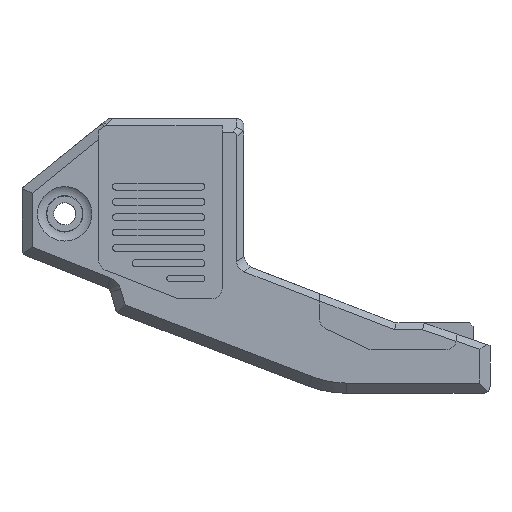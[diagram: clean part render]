
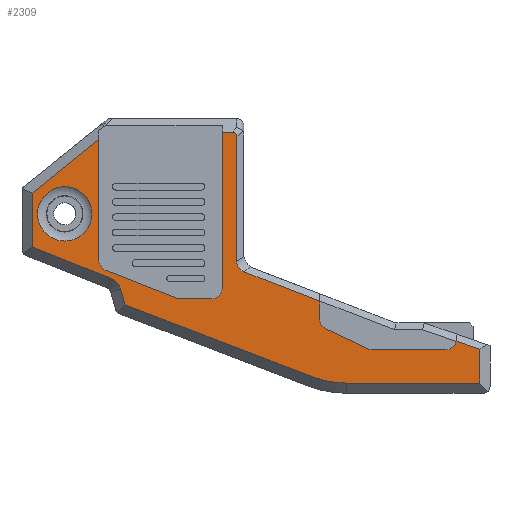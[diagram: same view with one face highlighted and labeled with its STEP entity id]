
A CAD part, left-side view. The second image highlights one B-rep face of the part: STEP entity #2309.
In plain terms, the highlighted planar face has unit normal (-1, 0, 0).
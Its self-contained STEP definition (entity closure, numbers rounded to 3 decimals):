
#2068=CARTESIAN_POINT('',(-20.,0.,-1.));
#2069=DIRECTION('',(-1.,0.,0.));
#2070=DIRECTION('',(0.,1.,0.));
#2071=AXIS2_PLACEMENT_3D('',#2068,#2069,#2070);
#2072=PLANE('',#2071);
#2073=CARTESIAN_POINT('',(-20.,750.,-139.));
#2074=VERTEX_POINT('',#2073);
#2075=CARTESIAN_POINT('',(-20.,750.,-131.));
#2076=DIRECTION('',(-1.,-0.,-0.));
#2077=DIRECTION('',(0.,0.,-1.));
#2078=AXIS2_PLACEMENT_3D('',#2075,#2076,#2077);
#2079=CIRCLE('',#2078,8.);
#2080=EDGE_CURVE('',#2074,#2074,#2079,.T.);
#2081=ORIENTED_EDGE('',*,*,#2080,.F.);
#2082=EDGE_LOOP('',(#2081));
#2083=FACE_BOUND('',#2082,.T.);
#2084=CARTESIAN_POINT('',(-20.,699.414,-145.057));
#2085=VERTEX_POINT('',#2084);
#2086=CARTESIAN_POINT('',(-20.,699.414,-108.453));
#2087=VERTEX_POINT('',#2086);
#2088=CARTESIAN_POINT('',(-20.,699.414,-145.057));
#2089=DIRECTION('',(-0.,-0.,1.));
#2090=VECTOR('',#2089,36.604);
#2091=LINE('',#2088,#2090);
#2092=EDGE_CURVE('',#2085,#2087,#2091,.T.);
#2093=ORIENTED_EDGE('',*,*,#2092,.T.);
#2094=CARTESIAN_POINT('',(-20.,700.829,-107.038));
#2095=VERTEX_POINT('',#2094);
#2096=CARTESIAN_POINT('',(-20.,699.414,-108.453));
#2097=CARTESIAN_POINT('',(-20.,699.414,-107.038));
#2098=CARTESIAN_POINT('',(-20.,700.829,-107.038));
#2099=(BOUNDED_CURVE()
B_SPLINE_CURVE(2,(#2096,#2097,#2098),.UNSPECIFIED.,.F.,.F.)
B_SPLINE_CURVE_WITH_KNOTS((3,3),(150.,210.),.UNSPECIFIED.)
CURVE()
GEOMETRIC_REPRESENTATION_ITEM()
RATIONAL_B_SPLINE_CURVE((1.,0.866,1.))
REPRESENTATION_ITEM(''));
#2100=EDGE_CURVE('',#2087,#2095,#2099,.T.);
#2101=ORIENTED_EDGE('',*,*,#2100,.T.);
#2102=CARTESIAN_POINT('',(-20.,703.776,-107.038));
#2103=VERTEX_POINT('',#2102);
#2104=CARTESIAN_POINT('',(-20.,700.829,-107.038));
#2105=DIRECTION('',(0.,1.,0.));
#2106=VECTOR('',#2105,2.947);
#2107=LINE('',#2104,#2106);
#2108=EDGE_CURVE('',#2095,#2103,#2107,.T.);
#2109=ORIENTED_EDGE('',*,*,#2108,.T.);
#2110=CARTESIAN_POINT('',(-20.,703.776,-153.));
#2111=VERTEX_POINT('',#2110);
#2112=CARTESIAN_POINT('',(-20.,703.776,-107.038));
#2113=DIRECTION('',(0.,0.,-1.));
#2114=VECTOR('',#2113,45.962);
#2115=LINE('',#2112,#2114);
#2116=EDGE_CURVE('',#2103,#2111,#2115,.T.);
#2117=ORIENTED_EDGE('',*,*,#2116,.T.);
#2118=CARTESIAN_POINT('',(-20.,706.776,-156.));
#2119=VERTEX_POINT('',#2118);
#2120=CARTESIAN_POINT('',(-20.,706.776,-153.));
#2121=DIRECTION('',(1.,0.,0.));
#2122=DIRECTION('',(0.,0.,-1.));
#2123=AXIS2_PLACEMENT_3D('',#2120,#2121,#2122);
#2124=CIRCLE('',#2123,3.);
#2125=EDGE_CURVE('',#2111,#2119,#2124,.T.);
#2126=ORIENTED_EDGE('',*,*,#2125,.T.);
#2127=CARTESIAN_POINT('',(-20.,715.65,-156.));
#2128=VERTEX_POINT('',#2127);
#2129=CARTESIAN_POINT('',(-20.,706.776,-156.));
#2130=DIRECTION('',(0.,1.,0.));
#2131=VECTOR('',#2130,8.875);
#2132=LINE('',#2129,#2131);
#2133=EDGE_CURVE('',#2119,#2128,#2132,.T.);
#2134=ORIENTED_EDGE('',*,*,#2133,.T.);
#2135=CARTESIAN_POINT('',(-20.,717.524,-155.643));
#2136=VERTEX_POINT('',#2135);
#2137=CARTESIAN_POINT('',(-20.,715.65,-150.9));
#2138=DIRECTION('',(1.,0.,0.));
#2139=DIRECTION('',(0.,0.,-1.));
#2140=AXIS2_PLACEMENT_3D('',#2137,#2138,#2139);
#2141=CIRCLE('',#2140,5.1);
#2142=EDGE_CURVE('',#2128,#2136,#2141,.T.);
#2143=ORIENTED_EDGE('',*,*,#2142,.T.);
#2144=CARTESIAN_POINT('',(-20.,738.102,-147.515));
#2145=VERTEX_POINT('',#2144);
#2146=CARTESIAN_POINT('',(-20.,717.524,-155.643));
#2147=DIRECTION('',(0.,0.93,0.367));
#2148=VECTOR('',#2147,22.125);
#2149=LINE('',#2146,#2148);
#2150=EDGE_CURVE('',#2136,#2145,#2149,.T.);
#2151=ORIENTED_EDGE('',*,*,#2150,.T.);
#2152=CARTESIAN_POINT('',(-20.,740.,-144.725));
#2153=VERTEX_POINT('',#2152);
#2154=CARTESIAN_POINT('',(-20.,737.,-144.725));
#2155=DIRECTION('',(1.,0.,0.));
#2156=DIRECTION('',(0.,0.,-1.));
#2157=AXIS2_PLACEMENT_3D('',#2154,#2155,#2156);
#2158=CIRCLE('',#2157,3.);
#2159=EDGE_CURVE('',#2145,#2153,#2158,.T.);
#2160=ORIENTED_EDGE('',*,*,#2159,.T.);
#2161=CARTESIAN_POINT('',(-20.,740.,-109.131));
#2162=VERTEX_POINT('',#2161);
#2163=CARTESIAN_POINT('',(-20.,740.,-144.725));
#2164=DIRECTION('',(-0.,-0.,1.));
#2165=VECTOR('',#2164,35.593);
#2166=LINE('',#2163,#2165);
#2167=EDGE_CURVE('',#2153,#2162,#2166,.T.);
#2168=ORIENTED_EDGE('',*,*,#2167,.T.);
#2169=CARTESIAN_POINT('',(-20.,759.57,-124.914));
#2170=VERTEX_POINT('',#2169);
#2171=CARTESIAN_POINT('',(-20.,740.,-109.131));
#2172=DIRECTION('',(0.,0.778,-0.628));
#2173=VECTOR('',#2172,25.141);
#2174=LINE('',#2171,#2173);
#2175=EDGE_CURVE('',#2162,#2170,#2174,.T.);
#2176=ORIENTED_EDGE('',*,*,#2175,.T.);
#2177=CARTESIAN_POINT('',(-20.,759.57,-140.797));
#2178=VERTEX_POINT('',#2177);
#2179=CARTESIAN_POINT('',(-20.,759.57,-124.914));
#2180=DIRECTION('',(0.,0.,-1.));
#2181=VECTOR('',#2180,15.882);
#2182=LINE('',#2179,#2181);
#2183=EDGE_CURVE('',#2170,#2178,#2182,.T.);
#2184=ORIENTED_EDGE('',*,*,#2183,.T.);
#2185=CARTESIAN_POINT('',(-20.,736.559,-149.886));
#2186=VERTEX_POINT('',#2185);
#2187=CARTESIAN_POINT('',(-20.,759.57,-140.797));
#2188=DIRECTION('',(0.,-0.93,-0.367));
#2189=VECTOR('',#2188,24.74);
#2190=LINE('',#2187,#2189);
#2191=EDGE_CURVE('',#2178,#2186,#2190,.T.);
#2192=ORIENTED_EDGE('',*,*,#2191,.T.);
#2193=CARTESIAN_POINT('',(-20.,733.589,-153.163));
#2194=VERTEX_POINT('',#2193);
#2195=CARTESIAN_POINT('',(-20.,738.396,-154.536));
#2196=DIRECTION('',(1.,-0.,-0.));
#2197=DIRECTION('',(0.,0.,1.));
#2198=AXIS2_PLACEMENT_3D('',#2195,#2196,#2197);
#2199=CIRCLE('',#2198,5.);
#2200=EDGE_CURVE('',#2186,#2194,#2199,.T.);
#2201=ORIENTED_EDGE('',*,*,#2200,.T.);
#2202=CARTESIAN_POINT('',(-20.,732.271,-157.774));
#2203=VERTEX_POINT('',#2202);
#2204=CARTESIAN_POINT('',(-20.,733.589,-153.163));
#2205=DIRECTION('',(0.,-0.275,-0.962));
#2206=VECTOR('',#2205,4.796);
#2207=LINE('',#2204,#2206);
#2208=EDGE_CURVE('',#2194,#2203,#2207,.T.);
#2209=ORIENTED_EDGE('',*,*,#2208,.T.);
#2210=CARTESIAN_POINT('',(-20.,677.295,-178.875));
#2211=VERTEX_POINT('',#2210);
#2212=CARTESIAN_POINT('',(-20.,732.271,-157.774));
#2213=DIRECTION('',(0.,-0.934,-0.358));
#2214=VECTOR('',#2213,58.886);
#2215=LINE('',#2212,#2214);
#2216=EDGE_CURVE('',#2203,#2211,#2215,.T.);
#2217=ORIENTED_EDGE('',*,*,#2216,.T.);
#2218=CARTESIAN_POINT('',(-20.,667.262,-180.734));
#2219=VERTEX_POINT('',#2218);
#2220=CARTESIAN_POINT('',(-20.,667.262,-152.734));
#2221=DIRECTION('',(-1.,-0.,-0.));
#2222=DIRECTION('',(0.,0.,-1.));
#2223=AXIS2_PLACEMENT_3D('',#2220,#2221,#2222);
#2224=CIRCLE('',#2223,28.);
#2225=EDGE_CURVE('',#2211,#2219,#2224,.T.);
#2226=ORIENTED_EDGE('',*,*,#2225,.T.);
#2227=CARTESIAN_POINT('',(-20.,628.028,-180.734));
#2228=VERTEX_POINT('',#2227);
#2229=CARTESIAN_POINT('',(-20.,667.262,-180.734));
#2230=DIRECTION('',(-0.,-1.,-0.));
#2231=VECTOR('',#2230,39.234);
#2232=LINE('',#2229,#2231);
#2233=EDGE_CURVE('',#2219,#2228,#2232,.T.);
#2234=ORIENTED_EDGE('',*,*,#2233,.T.);
#2235=CARTESIAN_POINT('',(-20.,628.028,-170.816));
#2236=VERTEX_POINT('',#2235);
#2237=CARTESIAN_POINT('',(-20.,628.028,-180.734));
#2238=DIRECTION('',(-0.,-0.,1.));
#2239=VECTOR('',#2238,9.918);
#2240=LINE('',#2237,#2239);
#2241=EDGE_CURVE('',#2228,#2236,#2240,.T.);
#2242=ORIENTED_EDGE('',*,*,#2241,.T.);
#2243=CARTESIAN_POINT('',(-20.,635.027,-168.404));
#2244=VERTEX_POINT('',#2243);
#2245=CARTESIAN_POINT('',(-20.,628.028,-170.816));
#2246=DIRECTION('',(0.,0.945,0.326));
#2247=VECTOR('',#2246,7.403);
#2248=LINE('',#2245,#2247);
#2249=EDGE_CURVE('',#2236,#2244,#2248,.T.);
#2250=ORIENTED_EDGE('',*,*,#2249,.T.);
#2251=CARTESIAN_POINT('',(-20.,638.,-171.));
#2252=VERTEX_POINT('',#2251);
#2253=CARTESIAN_POINT('',(-20.,638.,-168.));
#2254=DIRECTION('',(1.,0.,0.));
#2255=DIRECTION('',(0.,0.,-1.));
#2256=AXIS2_PLACEMENT_3D('',#2253,#2254,#2255);
#2257=CIRCLE('',#2256,3.);
#2258=EDGE_CURVE('',#2244,#2252,#2257,.T.);
#2259=ORIENTED_EDGE('',*,*,#2258,.T.);
#2260=CARTESIAN_POINT('',(-20.,660.,-171.));
#2261=VERTEX_POINT('',#2260);
#2262=CARTESIAN_POINT('',(-20.,660.,-171.));
#2263=DIRECTION('',(-0.,-1.,-0.));
#2264=VECTOR('',#2263,22.);
#2265=LINE('',#2262,#2264);
#2266=EDGE_CURVE('',#2261,#2252,#2265,.T.);
#2267=ORIENTED_EDGE('',*,*,#2266,.F.);
#2268=CARTESIAN_POINT('',(-20.,673.326,-164.727));
#2269=VERTEX_POINT('',#2268);
#2270=CARTESIAN_POINT('',(-20.,673.326,-164.727));
#2271=DIRECTION('',(-0.,-0.905,-0.426));
#2272=VECTOR('',#2271,14.729);
#2273=LINE('',#2270,#2272);
#2274=EDGE_CURVE('',#2269,#2261,#2273,.T.);
#2275=ORIENTED_EDGE('',*,*,#2274,.F.);
#2276=CARTESIAN_POINT('',(-20.,675.048,-162.012));
#2277=VERTEX_POINT('',#2276);
#2278=CARTESIAN_POINT('',(-20.,672.048,-162.012));
#2279=DIRECTION('',(1.,0.,0.));
#2280=DIRECTION('',(0.,0.,-1.));
#2281=AXIS2_PLACEMENT_3D('',#2278,#2279,#2280);
#2282=CIRCLE('',#2281,3.);
#2283=EDGE_CURVE('',#2269,#2277,#2282,.T.);
#2284=ORIENTED_EDGE('',*,*,#2283,.T.);
#2285=CARTESIAN_POINT('',(-20.,675.048,-156.596));
#2286=VERTEX_POINT('',#2285);
#2287=CARTESIAN_POINT('',(-20.,675.048,-156.596));
#2288=DIRECTION('',(-0.,-0.,-1.));
#2289=VECTOR('',#2288,5.416);
#2290=LINE('',#2287,#2289);
#2291=EDGE_CURVE('',#2286,#2277,#2290,.T.);
#2292=ORIENTED_EDGE('',*,*,#2291,.F.);
#2293=CARTESIAN_POINT('',(-20.,697.373,-148.028));
#2294=VERTEX_POINT('',#2293);
#2295=CARTESIAN_POINT('',(-20.,675.048,-156.596));
#2296=DIRECTION('',(0.,0.934,0.358));
#2297=VECTOR('',#2296,23.912);
#2298=LINE('',#2295,#2297);
#2299=EDGE_CURVE('',#2286,#2294,#2298,.T.);
#2300=ORIENTED_EDGE('',*,*,#2299,.T.);
#2301=CARTESIAN_POINT('',(-20.,697.373,-148.028));
#2302=CARTESIAN_POINT('',(-20.,699.414,-147.244));
#2303=CARTESIAN_POINT('',(-20.,699.414,-145.057));
#2304=(BOUNDED_CURVE()
B_SPLINE_CURVE(2,(#2301,#2302,#2303),.UNSPECIFIED.,.F.,.F.)
B_SPLINE_CURVE_WITH_KNOTS((3,3),(336.389,383.611),.UNSPECIFIED.)
CURVE()
GEOMETRIC_REPRESENTATION_ITEM()
RATIONAL_B_SPLINE_CURVE((1.,0.916,1.))
REPRESENTATION_ITEM(''));
#2305=EDGE_CURVE('',#2294,#2085,#2304,.T.);
#2306=ORIENTED_EDGE('',*,*,#2305,.T.);
#2307=EDGE_LOOP('',(#2093,#2101,#2109,#2117,#2126,#2134,#2143,#2151,#2160,#2168,#2176,#2184,#2192,#2201,#2209,#2217,#2226,#2234,#2242,#2250,#2259,#2267,#2275,#2284,#2292,#2300,
#2306));
#2308=FACE_BOUND('',#2307,.T.);
#2309=ADVANCED_FACE('',(#2083,#2308),#2072,.T.);
